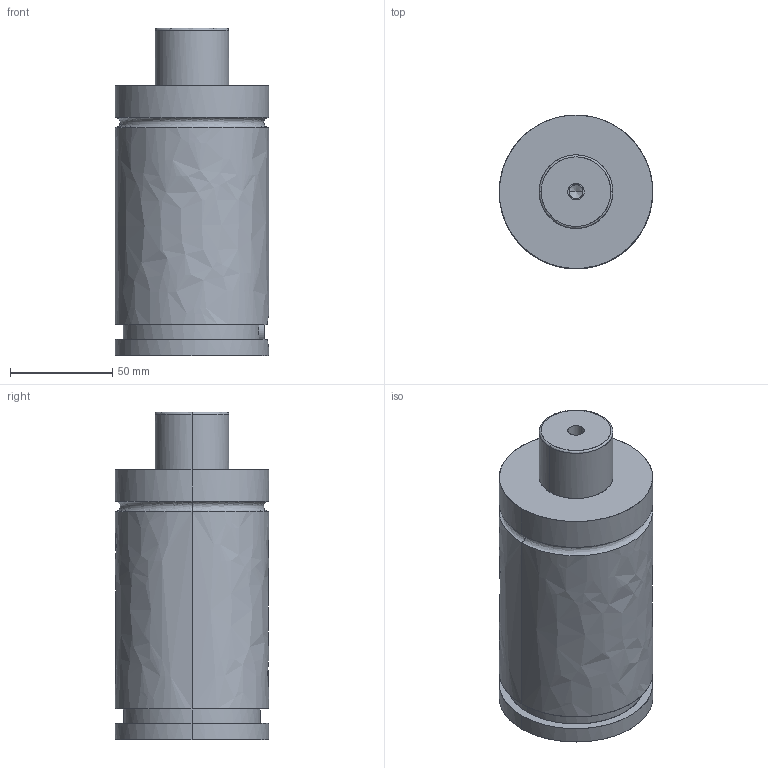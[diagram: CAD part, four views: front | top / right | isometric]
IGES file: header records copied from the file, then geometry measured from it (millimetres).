
Global section: file name: E:\UnigraphicsGraphicData\MISUMI_PRESS-PARTS\IGES\3d_gse75-25_03855_r00.igs; native system: NX V5.0; preprocessor: UGS NX IGES V5.0; author: MISUMI; date: 20110105.160801; units: millimetre
Bounding box: 75 x 75 x 160 mm (x, y, z)
Surface area: 47729.3 mm2 (no closed solid volume)
Topology: 0 solids, 0 shells, 75 faces, 606 edges, 604 vertices
Faces by surface type: bspline 75
